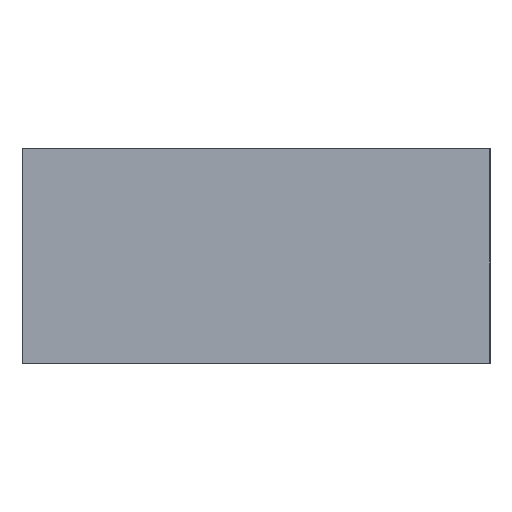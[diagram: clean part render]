
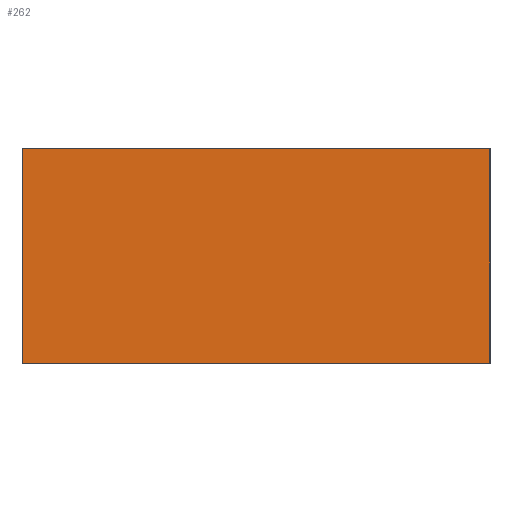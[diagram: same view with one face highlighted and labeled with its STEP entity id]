
A CAD part, top view. The second image highlights one B-rep face of the part: STEP entity #262.
In plain terms, the highlighted planar face has unit normal (0, 0, 1).
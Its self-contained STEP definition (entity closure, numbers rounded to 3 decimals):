
#262=ADVANCED_FACE('',(#496),#3293,.T.);
#496=FACE_OUTER_BOUND('',#746,.T.);
#746=EDGE_LOOP('',(#1715,#1716,#1717,#1718));
#1715=ORIENTED_EDGE('',*,*,#2275,.T.);
#1716=ORIENTED_EDGE('',*,*,#2278,.T.);
#1717=ORIENTED_EDGE('',*,*,#2276,.T.);
#1718=ORIENTED_EDGE('',*,*,#2277,.T.);
#2275=EDGE_CURVE('',#3076,#3077,#2788,.T.);
#2276=EDGE_CURVE('',#3078,#3079,#2789,.T.);
#2277=EDGE_CURVE('',#3079,#3076,#2790,.T.);
#2278=EDGE_CURVE('',#3077,#3078,#2791,.T.);
#2788=B_SPLINE_CURVE_WITH_KNOTS('',1,(#5554,#5555),.UNSPECIFIED.,.F.,.F.,
(2,2),(1.,1099.),.UNSPECIFIED.);
#2789=B_SPLINE_CURVE_WITH_KNOTS('',1,(#5556,#5557),.UNSPECIFIED.,.F.,.F.,
(2,2),(1.,1099.),.UNSPECIFIED.);
#2790=B_SPLINE_CURVE_WITH_KNOTS('',1,(#5558,#5559),.UNSPECIFIED.,.F.,.F.,
(2,2),(1.,2399.),.UNSPECIFIED.);
#2791=B_SPLINE_CURVE_WITH_KNOTS('',1,(#5560,#5561),.UNSPECIFIED.,.F.,.F.,
(2,2),(1.,2399.),.UNSPECIFIED.);
#3076=VERTEX_POINT('',#5510);
#3077=VERTEX_POINT('',#5511);
#3078=VERTEX_POINT('',#5512);
#3079=VERTEX_POINT('',#5513);
#3293=PLANE('',#3523);
#3523=AXIS2_PLACEMENT_3D('',#5445,#3737,$);
#3737=DIRECTION('',(0.,0.,1.));
#5445=CARTESIAN_POINT('',(-1200.,-550.,749.));
#5510=CARTESIAN_POINT('',(1199.,-549.,749.));
#5511=CARTESIAN_POINT('',(1199.,549.,749.));
#5512=CARTESIAN_POINT('',(-1199.,549.,749.));
#5513=CARTESIAN_POINT('',(-1199.,-549.,749.));
#5554=CARTESIAN_POINT('',(1199.,-549.,749.));
#5555=CARTESIAN_POINT('',(1199.,549.,749.));
#5556=CARTESIAN_POINT('',(-1199.,549.,749.));
#5557=CARTESIAN_POINT('',(-1199.,-549.,749.));
#5558=CARTESIAN_POINT('',(-1199.,-549.,749.));
#5559=CARTESIAN_POINT('',(1199.,-549.,749.));
#5560=CARTESIAN_POINT('',(1199.,549.,749.));
#5561=CARTESIAN_POINT('',(-1199.,549.,749.));
